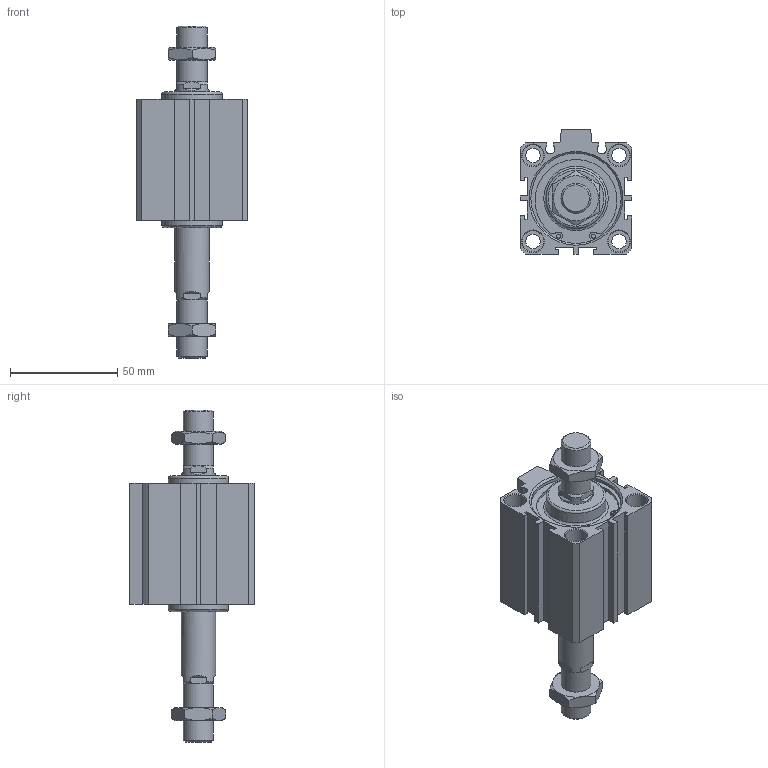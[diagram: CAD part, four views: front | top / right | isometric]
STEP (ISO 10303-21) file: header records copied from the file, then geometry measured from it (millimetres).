
FILE_DESCRIPTION((''),'2;1');
FILE_NAME('I:\3D電子目錄\氣缸\JDD\JDD-B\JDD40-B\JDD40x30-B.stp','2007-02-09T16:54:22',('662F206'),(''),'Autodesk Inventor 10','Autodesk Inventor 10','');
FILE_SCHEMA(('AUTOMOTIVE_DESIGN { 1 0 10303 214 1 1 1 1 }'));
Length unit declared in the file: millimetre
Products named in the file (3): JDD40-B; R 形環 42
Assembly tree (3 placements, depth 2):
  JDD40-B
    JDD40-B
    R 形環 42  x2
Bounding box: 52 x 58 x 154.5 mm (x, y, z)
Volume: 151185.4 mm3; surface area: 38017.7 mm2
Topology: 3 solids, 3 shells, 206 faces, 486 edges, 312 vertices
Faces by surface type: plane 114, cylinder 50, cone 38, bspline 2, torus 2
Full cylindrical faces by diameter (mm): 1.9 x4, 2.2 x2, 6.8 x4, 10 x8, 14 x4, 16 x2, 28 x2, 42 x4, 44.5 x2
Entity records: 5343 total; most frequent: CARTESIAN_POINT 1072, DIRECTION 880, ORIENTED_EDGE 792, EDGE_CURVE 396, AXIS2_PLACEMENT_3D 338, VERTEX_POINT 284, EDGE_LOOP 284, VECTOR 204
